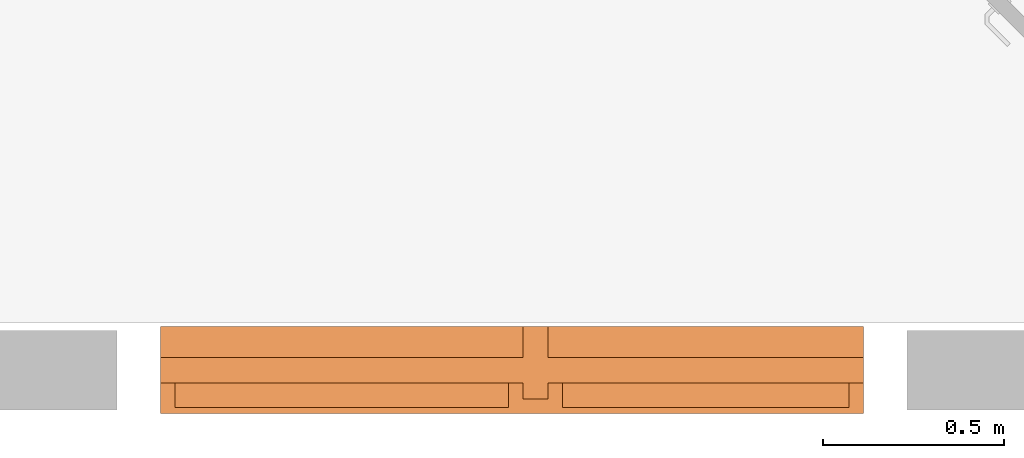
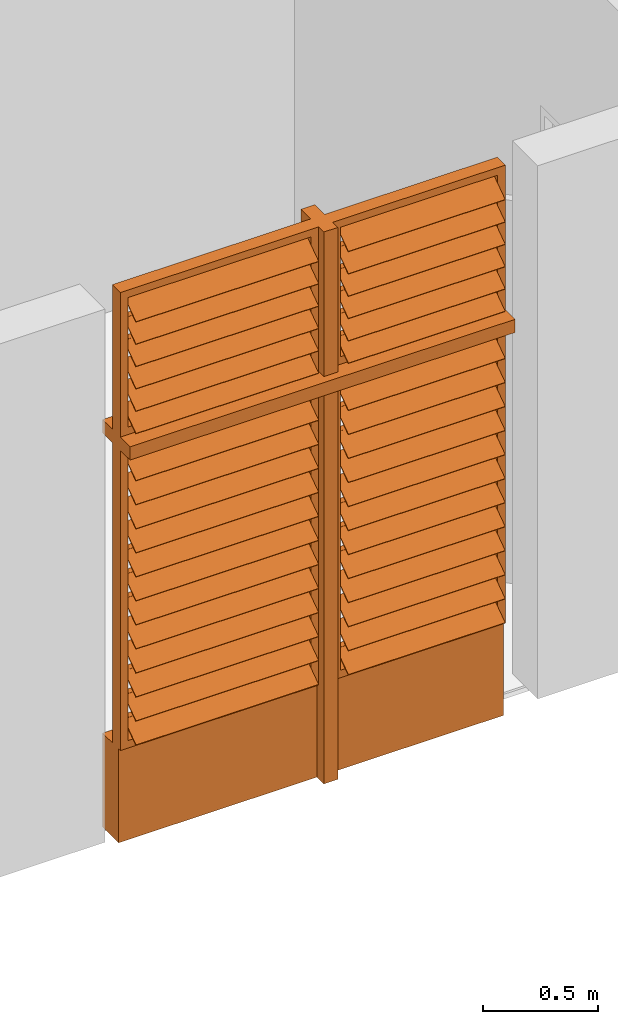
# One storey, part 10 of 15: 1 proxy.
"""IFC2X3 building model written with IfcOpenShell, lengths in metres."""

from ifc_helpers import new_model, entity, si_unit, converted_unit, derived_unit, direction, frame, frame_2d, origin, origin_2d_with_axis, place, context, subcontext, project, spatial, polyline, rectangle, outline, extrude, source, transform, mapped, material, material_list, type_object, type_shapes, element, save


model = new_model("IFC2X3")

# Units and contexts
model_context = context("Model", 3, precision=1e-05, world=origin(), true_north=direction((6.12303176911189e-17, 1.0)))
body_context = subcontext(model_context, "Body", "Model", "MODEL_VIEW")
ifc_project = project(units=[si_unit("LENGTHUNIT", "METRE"), si_unit("AREAUNIT", "SQUARE_METRE"), si_unit("VOLUMEUNIT", "CUBIC_METRE"), converted_unit("PLANEANGLEUNIT", "DEGREE", entity("IfcRatioMeasure", 0.0174532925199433), si_unit("PLANEANGLEUNIT", "RADIAN"), dimensions=[0, 0, 0, 0, 0, 0, 0]), si_unit("MASSUNIT", "GRAM", prefix="KILO"), derived_unit("MASSDENSITYUNIT", [(si_unit("MASSUNIT", "GRAM", prefix="KILO"), 1), (si_unit("LENGTHUNIT", "METRE"), -3)]), si_unit("TIMEUNIT", "SECOND"), si_unit("FREQUENCYUNIT", "HERTZ"), si_unit("THERMODYNAMICTEMPERATUREUNIT", "DEGREE_CELSIUS"), derived_unit("THERMALTRANSMITTANCEUNIT", [(si_unit("MASSUNIT", "GRAM", prefix="KILO"), 1), (si_unit("THERMODYNAMICTEMPERATUREUNIT", "KELVIN"), -1), (si_unit("TIMEUNIT", "SECOND"), -3)]), derived_unit("VOLUMETRICFLOWRATEUNIT", [(si_unit("LENGTHUNIT", "METRE"), 3), (si_unit("TIMEUNIT", "SECOND"), -1)]), si_unit("ELECTRICCURRENTUNIT", "AMPERE"), si_unit("ELECTRICVOLTAGEUNIT", "VOLT"), si_unit("POWERUNIT", "WATT"), si_unit("FORCEUNIT", "NEWTON", prefix="KILO"), si_unit("ILLUMINANCEUNIT", "LUX"), si_unit("LUMINOUSFLUXUNIT", "LUMEN"), si_unit("LUMINOUSINTENSITYUNIT", "CANDELA"), derived_unit("USERDEFINED", [(si_unit("MASSUNIT", "GRAM", prefix="KILO"), -1), (si_unit("LENGTHUNIT", "METRE"), -2), (si_unit("TIMEUNIT", "SECOND"), 3), (si_unit("LUMINOUSFLUXUNIT", "LUMEN"), 1)]), derived_unit("LINEARVELOCITYUNIT", [(si_unit("LENGTHUNIT", "METRE"), 1), (si_unit("TIMEUNIT", "SECOND"), -1)]), si_unit("PRESSUREUNIT", "PASCAL"), derived_unit("USERDEFINED", [(si_unit("LENGTHUNIT", "METRE"), -2), (si_unit("MASSUNIT", "GRAM", prefix="KILO"), 1), (si_unit("TIMEUNIT", "SECOND"), -2)])], contexts=[model_context])

# Site, building, storey
site_placement = place(None, origin())
site = spatial("IfcSite", under=ifc_project, at=site_placement, Name="Surface", CompositionType="ELEMENT")
building_placement = place(site_placement, origin())
building = spatial("IfcBuilding", under=site, at=building_placement, Name="ExPREF", CompositionType="ELEMENT")
storey_placement = place(building_placement, frame((0.0, 0.0, 7.83)))
storey = spatial("IfcBuildingStorey", under=building, at=storey_placement, Name="R+2", CompositionType="ELEMENT", Elevation=7.83)

# Proxy
ifc_material_1 = material(Name="AA-Aluminium")
ifc_material_2 = material(Name="AA-vitrage")
ifc_material_3 = material(Name="AA-bois menuiseries")
ifc_material_list_1 = material_list([ifc_material_1, ifc_material_2, ifc_material_3])
ifc_material_list_2 = material_list([ifc_material_1, ifc_material_2, ifc_material_3])
building_element_proxy_type = type_object("IfcBuildingElementProxyType", Name="R+2 naco + naco", PredefinedType="NOTDEFINED", material=ifc_material_list_2)
shared_shape = source(origin(), body_context, "Body", "SweptSolid", [
    extrude(rectangle(XDim=0.00770243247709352, YDim=0.0205728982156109, at=frame_2d((1.62196645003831e-16, 2.16840434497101e-16), x_axis=(0.0, 1.0))), frame((0.139999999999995, -0.107700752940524, 2.89046018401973), z_axis=(1.0, 0.0, 0.0), x_axis=(0.0, 0.819152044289, 0.573576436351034)), (0.0, 0.0, 1.0), 0.790000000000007),
    extrude(rectangle(XDim=0.00499999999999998, YDim=0.129427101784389, at=origin_2d_with_axis()), frame((0.139999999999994, -0.169165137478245, 2.84748191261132), z_axis=(1.0, 0.0, 0.0), x_axis=(0.0, -0.573576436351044, 0.819152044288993)), (0.0, 0.0, 1.0), 0.790000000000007),
    extrude(rectangle(XDim=0.00770243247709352, YDim=0.0205728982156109, at=frame_2d((1.62196645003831e-16, 2.16840434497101e-16), x_axis=(0.0, 1.0))), frame((-0.930000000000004, -0.107700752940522, 2.89046018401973), z_axis=(1.0, 0.0, 0.0), x_axis=(0.0, 0.819152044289, 0.573576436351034)), (0.0, 0.0, 1.0), 0.920000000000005),
    extrude(rectangle(XDim=0.00499999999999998, YDim=0.129427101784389, at=origin_2d_with_axis()), frame((-0.930000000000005, -0.169165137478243, 2.84748191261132), z_axis=(1.0, 0.0, 0.0), x_axis=(0.0, -0.573576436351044, 0.819152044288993)), (0.0, 0.0, 1.0), 0.920000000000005),
    extrude(rectangle(XDim=0.0077024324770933, YDim=0.0205728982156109, at=frame_2d((1.99493199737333e-17, -1.49619899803e-17), x_axis=(0.0, 1.0))), frame((-0.930000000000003, -0.107700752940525, 2.04446018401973), z_axis=(1.0, 0.0, 0.0), x_axis=(0.0, 0.819152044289, 0.573576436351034)), (0.0, 0.0, 1.0), 0.920000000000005),
    extrude(rectangle(XDim=0.00499999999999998, YDim=0.129427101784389, at=frame_2d((4.11996825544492e-18, 6.93889390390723e-18), x_axis=(1.0, 0.0))), frame((-0.930000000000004, -0.169165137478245, 2.00148191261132), z_axis=(1.0, 0.0, 0.0), x_axis=(0.0, -0.573576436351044, 0.819152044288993)), (0.0, 0.0, 1.0), 0.920000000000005),
    extrude(rectangle(XDim=0.00770243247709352, YDim=0.0205728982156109, at=frame_2d((1.99493199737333e-17, -1.49619899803e-17), x_axis=(0.0, 1.0))), frame((-0.930000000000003, -0.107700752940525, 1.91646018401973), z_axis=(1.0, 0.0, 0.0), x_axis=(0.0, 0.819152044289, 0.573576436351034)), (0.0, 0.0, 1.0), 0.920000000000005),
    extrude(rectangle(XDim=0.00499999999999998, YDim=0.129427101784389, at=frame_2d((4.11996825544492e-18, 6.93889390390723e-18), x_axis=(1.0, 0.0))), frame((-0.930000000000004, -0.169165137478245, 1.87348191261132), z_axis=(1.0, 0.0, 0.0), x_axis=(0.0, -0.573576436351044, 0.819152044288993)), (0.0, 0.0, 1.0), 0.920000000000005),
    extrude(rectangle(XDim=0.00770243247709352, YDim=0.0205728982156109, at=frame_2d((1.99493199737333e-17, -1.49619899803e-17), x_axis=(0.0, 1.0))), frame((-0.930000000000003, -0.107700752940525, 1.78846018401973), z_axis=(1.0, 0.0, 0.0), x_axis=(0.0, 0.819152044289, 0.573576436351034)), (0.0, 0.0, 1.0), 0.920000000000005),
    extrude(rectangle(XDim=0.00499999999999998, YDim=0.129427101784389, at=frame_2d((4.11996825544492e-18, 6.93889390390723e-18), x_axis=(1.0, 0.0))), frame((-0.930000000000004, -0.169165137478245, 1.74548191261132), z_axis=(1.0, 0.0, 0.0), x_axis=(0.0, -0.573576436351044, 0.819152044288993)), (0.0, 0.0, 1.0), 0.920000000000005),
    extrude(rectangle(XDim=0.00770243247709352, YDim=0.0205728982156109, at=frame_2d((1.99493199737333e-17, -1.49619899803e-17), x_axis=(0.0, 1.0))), frame((-0.930000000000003, -0.107700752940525, 1.66046018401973), z_axis=(1.0, 0.0, 0.0), x_axis=(0.0, 0.819152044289, 0.573576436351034)), (0.0, 0.0, 1.0), 0.920000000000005),
    extrude(rectangle(XDim=0.00499999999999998, YDim=0.129427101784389, at=frame_2d((4.11996825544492e-18, 6.93889390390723e-18), x_axis=(1.0, 0.0))), frame((-0.930000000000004, -0.169165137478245, 1.61748191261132), z_axis=(1.0, 0.0, 0.0), x_axis=(0.0, -0.573576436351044, 0.819152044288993)), (0.0, 0.0, 1.0), 0.920000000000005),
    extrude(rectangle(XDim=0.00770243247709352, YDim=0.0205728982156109, at=frame_2d((1.99493199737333e-17, -1.49619899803e-17), x_axis=(0.0, 1.0))), frame((-0.930000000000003, -0.107700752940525, 1.53246018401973), z_axis=(1.0, 0.0, 0.0), x_axis=(0.0, 0.819152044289, 0.573576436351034)), (0.0, 0.0, 1.0), 0.920000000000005),
    extrude(rectangle(XDim=0.00499999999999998, YDim=0.129427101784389, at=frame_2d((4.11996825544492e-18, 6.93889390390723e-18), x_axis=(1.0, 0.0))), frame((-0.930000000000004, -0.169165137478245, 1.48948191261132), z_axis=(1.0, 0.0, 0.0), x_axis=(0.0, -0.573576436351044, 0.819152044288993)), (0.0, 0.0, 1.0), 0.920000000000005),
    extrude(rectangle(XDim=0.00770243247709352, YDim=0.0205728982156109, at=frame_2d((1.99493199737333e-17, -1.49619899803e-17), x_axis=(0.0, 1.0))), frame((-0.930000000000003, -0.107700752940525, 1.40446018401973), z_axis=(1.0, 0.0, 0.0), x_axis=(0.0, 0.819152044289, 0.573576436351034)), (0.0, 0.0, 1.0), 0.920000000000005),
    extrude(rectangle(XDim=0.00499999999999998, YDim=0.129427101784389, at=frame_2d((4.11996825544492e-18, 6.93889390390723e-18), x_axis=(1.0, 0.0))), frame((-0.930000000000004, -0.169165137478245, 1.36148191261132), z_axis=(1.0, 0.0, 0.0), x_axis=(0.0, -0.573576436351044, 0.819152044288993)), (0.0, 0.0, 1.0), 0.920000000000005),
    extrude(rectangle(XDim=0.00770243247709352, YDim=0.0205728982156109, at=frame_2d((1.99493199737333e-17, -1.49619899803e-17), x_axis=(0.0, 1.0))), frame((-0.930000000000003, -0.107700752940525, 1.27646018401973), z_axis=(1.0, 0.0, 0.0), x_axis=(0.0, 0.819152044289, 0.573576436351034)), (0.0, 0.0, 1.0), 0.920000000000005),
    extrude(rectangle(XDim=0.00499999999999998, YDim=0.129427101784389, at=frame_2d((4.11996825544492e-18, 6.93889390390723e-18), x_axis=(1.0, 0.0))), frame((-0.930000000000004, -0.169165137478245, 1.23348191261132), z_axis=(1.0, 0.0, 0.0), x_axis=(0.0, -0.573576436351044, 0.819152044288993)), (0.0, 0.0, 1.0), 0.920000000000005),
    extrude(rectangle(XDim=0.00770243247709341, YDim=0.020572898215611, at=frame_2d((-1.82145964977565e-17, -7.02563007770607e-17), x_axis=(0.0, 1.0))), frame((-0.930000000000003, -0.107700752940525, 1.14846018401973), z_axis=(1.0, 0.0, 0.0), x_axis=(0.0, 0.819152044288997, 0.573576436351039)), (0.0, 0.0, 1.0), 0.920000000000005),
    extrude(rectangle(XDim=0.0050000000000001, YDim=0.129427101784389, at=frame_2d((4.33680868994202e-18, 6.93889390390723e-18), x_axis=(1.0, 0.0))), frame((-0.930000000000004, -0.169165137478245, 1.10548191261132), z_axis=(1.0, 0.0, 0.0), x_axis=(0.0, -0.573576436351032, 0.819152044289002)), (0.0, 0.0, 1.0), 0.920000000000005),
    extrude(rectangle(XDim=0.00770243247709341, YDim=0.020572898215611, at=frame_2d((-1.82145964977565e-17, -7.02563007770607e-17), x_axis=(0.0, 1.0))), frame((-0.930000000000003, -0.107700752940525, 1.02046018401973), z_axis=(1.0, 0.0, 0.0), x_axis=(0.0, 0.819152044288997, 0.573576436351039)), (0.0, 0.0, 1.0), 0.920000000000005),
    extrude(rectangle(XDim=0.0050000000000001, YDim=0.129427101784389, at=frame_2d((4.33680868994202e-18, 6.93889390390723e-18), x_axis=(1.0, 0.0))), frame((-0.930000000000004, -0.169165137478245, 0.977481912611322), z_axis=(1.0, 0.0, 0.0), x_axis=(0.0, -0.573576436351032, 0.819152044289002)), (0.0, 0.0, 1.0), 0.920000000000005),
    extrude(rectangle(XDim=0.00770243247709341, YDim=0.020572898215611, at=frame_2d((-1.82145964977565e-17, -7.02563007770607e-17), x_axis=(0.0, 1.0))), frame((-0.930000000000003, -0.107700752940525, 0.892460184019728), z_axis=(1.0, 0.0, 0.0), x_axis=(0.0, 0.819152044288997, 0.573576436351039)), (0.0, 0.0, 1.0), 0.920000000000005),
    extrude(rectangle(XDim=0.0050000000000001, YDim=0.129427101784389, at=frame_2d((4.33680868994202e-18, 6.93889390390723e-18), x_axis=(1.0, 0.0))), frame((-0.930000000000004, -0.169165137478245, 0.849481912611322), z_axis=(1.0, 0.0, 0.0), x_axis=(0.0, -0.573576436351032, 0.819152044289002)), (0.0, 0.0, 1.0), 0.920000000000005),
    extrude(rectangle(XDim=0.00770243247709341, YDim=0.020572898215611, at=frame_2d((-1.82145964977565e-17, -7.02563007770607e-17), x_axis=(0.0, 1.0))), frame((-0.930000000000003, -0.107700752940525, 0.764460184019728), z_axis=(1.0, 0.0, 0.0), x_axis=(0.0, 0.819152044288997, 0.573576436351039)), (0.0, 0.0, 1.0), 0.920000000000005),
    extrude(rectangle(XDim=0.0050000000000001, YDim=0.129427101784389, at=frame_2d((4.33680868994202e-18, 6.93889390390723e-18), x_axis=(1.0, 0.0))), frame((-0.930000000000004, -0.169165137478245, 0.721481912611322), z_axis=(1.0, 0.0, 0.0), x_axis=(0.0, -0.573576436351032, 0.819152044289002)), (0.0, 0.0, 1.0), 0.920000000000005),
    extrude(rectangle(XDim=0.00770243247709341, YDim=0.020572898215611, at=frame_2d((-1.82145964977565e-17, -7.02563007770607e-17), x_axis=(0.0, 1.0))), frame((-0.930000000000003, -0.107700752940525, 0.636460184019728), z_axis=(1.0, 0.0, 0.0), x_axis=(0.0, 0.819152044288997, 0.573576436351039)), (0.0, 0.0, 1.0), 0.920000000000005),
    extrude(rectangle(XDim=0.0050000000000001, YDim=0.129427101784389, at=frame_2d((4.33680868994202e-18, 6.93889390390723e-18), x_axis=(1.0, 0.0))), frame((-0.930000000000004, -0.169165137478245, 0.593481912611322), z_axis=(1.0, 0.0, 0.0), x_axis=(0.0, -0.573576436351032, 0.819152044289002)), (0.0, 0.0, 1.0), 0.920000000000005),
    extrude(rectangle(XDim=0.00770243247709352, YDim=0.0205728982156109, at=frame_2d((6.93889390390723e-18, -4.77048955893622e-18), x_axis=(0.0, 1.0))), frame((0.139999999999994, -0.107700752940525, 2.04446018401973), z_axis=(1.0, 0.0, 0.0), x_axis=(0.0, 0.819152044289, 0.573576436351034)), (0.0, 0.0, 1.0), 0.790000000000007),
    extrude(rectangle(XDim=0.00499999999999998, YDim=0.129427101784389, at=origin_2d_with_axis()), frame((0.139999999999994, -0.169165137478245, 2.00148191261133), z_axis=(1.0, 0.0, 0.0), x_axis=(0.0, -0.573576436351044, 0.819152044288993)), (0.0, 0.0, 1.0), 0.790000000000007),
    extrude(rectangle(XDim=0.0077024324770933, YDim=0.0205728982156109, at=frame_2d((6.93889390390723e-18, -4.77048955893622e-18), x_axis=(0.0, 1.0))), frame((0.139999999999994, -0.107700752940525, 1.91646018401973), z_axis=(1.0, 0.0, 0.0), x_axis=(0.0, 0.819152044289, 0.573576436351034)), (0.0, 0.0, 1.0), 0.790000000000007),
    extrude(rectangle(XDim=0.00499999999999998, YDim=0.129427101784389, at=origin_2d_with_axis()), frame((0.139999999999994, -0.169165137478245, 1.87348191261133), z_axis=(1.0, 0.0, 0.0), x_axis=(0.0, -0.573576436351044, 0.819152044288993)), (0.0, 0.0, 1.0), 0.790000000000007),
    extrude(rectangle(XDim=0.0077024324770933, YDim=0.0205728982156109, at=frame_2d((6.93889390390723e-18, -4.77048955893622e-18), x_axis=(0.0, 1.0))), frame((0.139999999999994, -0.107700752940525, 1.78846018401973), z_axis=(1.0, 0.0, 0.0), x_axis=(0.0, 0.819152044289, 0.573576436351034)), (0.0, 0.0, 1.0), 0.790000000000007),
    extrude(rectangle(XDim=0.00499999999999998, YDim=0.129427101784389, at=origin_2d_with_axis()), frame((0.139999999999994, -0.169165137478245, 1.74548191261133), z_axis=(1.0, 0.0, 0.0), x_axis=(0.0, -0.573576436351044, 0.819152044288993)), (0.0, 0.0, 1.0), 0.790000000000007),
    extrude(rectangle(XDim=0.0077024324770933, YDim=0.0205728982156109, at=frame_2d((6.93889390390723e-18, -4.77048955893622e-18), x_axis=(0.0, 1.0))), frame((0.139999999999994, -0.107700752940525, 1.66046018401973), z_axis=(1.0, 0.0, 0.0), x_axis=(0.0, 0.819152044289, 0.573576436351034)), (0.0, 0.0, 1.0), 0.790000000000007),
    extrude(rectangle(XDim=0.00499999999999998, YDim=0.129427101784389, at=origin_2d_with_axis()), frame((0.139999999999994, -0.169165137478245, 1.61748191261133), z_axis=(1.0, 0.0, 0.0), x_axis=(0.0, -0.573576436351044, 0.819152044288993)), (0.0, 0.0, 1.0), 0.790000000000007),
    extrude(rectangle(XDim=0.0077024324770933, YDim=0.0205728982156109, at=frame_2d((6.93889390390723e-18, -4.77048955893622e-18), x_axis=(0.0, 1.0))), frame((0.139999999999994, -0.107700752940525, 1.53246018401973), z_axis=(1.0, 0.0, 0.0), x_axis=(0.0, 0.819152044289, 0.573576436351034)), (0.0, 0.0, 1.0), 0.790000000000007),
    extrude(rectangle(XDim=0.00499999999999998, YDim=0.129427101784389, at=origin_2d_with_axis()), frame((0.139999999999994, -0.169165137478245, 1.48948191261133), z_axis=(1.0, 0.0, 0.0), x_axis=(0.0, -0.573576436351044, 0.819152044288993)), (0.0, 0.0, 1.0), 0.790000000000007),
    extrude(rectangle(XDim=0.0077024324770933, YDim=0.0205728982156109, at=frame_2d((6.93889390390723e-18, -4.77048955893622e-18), x_axis=(0.0, 1.0))), frame((0.139999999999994, -0.107700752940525, 1.40446018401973), z_axis=(1.0, 0.0, 0.0), x_axis=(0.0, 0.819152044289, 0.573576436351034)), (0.0, 0.0, 1.0), 0.790000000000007),
    extrude(rectangle(XDim=0.00499999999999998, YDim=0.129427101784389, at=origin_2d_with_axis()), frame((0.139999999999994, -0.169165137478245, 1.36148191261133), z_axis=(1.0, 0.0, 0.0), x_axis=(0.0, -0.573576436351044, 0.819152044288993)), (0.0, 0.0, 1.0), 0.790000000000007),
    extrude(rectangle(XDim=0.0077024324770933, YDim=0.0205728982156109, at=frame_2d((6.93889390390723e-18, -4.77048955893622e-18), x_axis=(0.0, 1.0))), frame((0.139999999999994, -0.107700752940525, 1.27646018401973), z_axis=(1.0, 0.0, 0.0), x_axis=(0.0, 0.819152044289, 0.573576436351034)), (0.0, 0.0, 1.0), 0.790000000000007),
    extrude(rectangle(XDim=0.00499999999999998, YDim=0.129427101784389, at=origin_2d_with_axis()), frame((0.139999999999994, -0.169165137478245, 1.23348191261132), z_axis=(1.0, 0.0, 0.0), x_axis=(0.0, -0.573576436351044, 0.819152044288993)), (0.0, 0.0, 1.0), 0.790000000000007),
    extrude(rectangle(XDim=0.00770243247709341, YDim=0.020572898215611, at=frame_2d((4.68375338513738e-17, 5.07406616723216e-17), x_axis=(0.0, 1.0))), frame((0.139999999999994, -0.107700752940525, 1.14846018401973), z_axis=(1.0, 0.0, 0.0), x_axis=(0.0, 0.819152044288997, 0.573576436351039)), (0.0, 0.0, 1.0), 0.790000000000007),
    extrude(rectangle(XDim=0.00500000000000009, YDim=0.129427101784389, at=origin_2d_with_axis()), frame((0.139999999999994, -0.169165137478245, 1.10548191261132), z_axis=(1.0, 0.0, 0.0), x_axis=(0.0, -0.573576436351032, 0.819152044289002)), (0.0, 0.0, 1.0), 0.790000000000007),
    extrude(rectangle(XDim=0.00770243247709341, YDim=0.020572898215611, at=frame_2d((4.68375338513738e-17, 5.07406616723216e-17), x_axis=(0.0, 1.0))), frame((0.139999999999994, -0.107700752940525, 1.02046018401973), z_axis=(1.0, 0.0, 0.0), x_axis=(0.0, 0.819152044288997, 0.573576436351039)), (0.0, 0.0, 1.0), 0.790000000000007),
    extrude(rectangle(XDim=0.00500000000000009, YDim=0.129427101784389, at=origin_2d_with_axis()), frame((0.139999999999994, -0.169165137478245, 0.977481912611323), z_axis=(1.0, 0.0, 0.0), x_axis=(0.0, -0.573576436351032, 0.819152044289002)), (0.0, 0.0, 1.0), 0.790000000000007),
    extrude(rectangle(XDim=0.00770243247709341, YDim=0.020572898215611, at=frame_2d((4.68375338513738e-17, 5.07406616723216e-17), x_axis=(0.0, 1.0))), frame((0.139999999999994, -0.107700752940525, 0.892460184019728), z_axis=(1.0, 0.0, 0.0), x_axis=(0.0, 0.819152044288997, 0.573576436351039)), (0.0, 0.0, 1.0), 0.790000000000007),
    extrude(rectangle(XDim=0.00500000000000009, YDim=0.129427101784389, at=origin_2d_with_axis()), frame((0.139999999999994, -0.169165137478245, 0.849481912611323), z_axis=(1.0, 0.0, 0.0), x_axis=(0.0, -0.573576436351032, 0.819152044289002)), (0.0, 0.0, 1.0), 0.790000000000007),
    extrude(rectangle(XDim=0.00770243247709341, YDim=0.020572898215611, at=frame_2d((-3.29597460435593e-17, -6.0281640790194e-17), x_axis=(0.0, 1.0))), frame((0.139999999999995, -0.107700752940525, 0.764460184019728), z_axis=(1.0, 0.0, 0.0), x_axis=(0.0, 0.819152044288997, 0.573576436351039)), (0.0, 0.0, 1.0), 0.790000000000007),
    extrude(rectangle(XDim=0.00500000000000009, YDim=0.129427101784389, at=origin_2d_with_axis()), frame((0.139999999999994, -0.169165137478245, 0.721481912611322), z_axis=(1.0, 0.0, 0.0), x_axis=(0.0, -0.573576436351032, 0.819152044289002)), (0.0, 0.0, 1.0), 0.790000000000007),
    extrude(rectangle(XDim=0.00770243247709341, YDim=0.020572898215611, at=frame_2d((-3.29597460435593e-17, -6.0281640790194e-17), x_axis=(0.0, 1.0))), frame((0.139999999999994, -0.107700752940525, 0.636460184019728), z_axis=(1.0, 0.0, 0.0), x_axis=(0.0, 0.819152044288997, 0.573576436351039)), (0.0, 0.0, 1.0), 0.790000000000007),
    extrude(rectangle(XDim=0.00500000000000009, YDim=0.129427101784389, at=origin_2d_with_axis()), frame((0.139999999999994, -0.169165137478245, 0.593481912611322), z_axis=(1.0, 0.0, 0.0), x_axis=(0.0, -0.573576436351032, 0.819152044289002)), (0.0, 0.0, 1.0), 0.790000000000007),
    extrude(rectangle(XDim=0.00770243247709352, YDim=0.0205728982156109, at=frame_2d((1.62196645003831e-16, 2.16840434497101e-16), x_axis=(0.0, 1.0))), frame((0.139999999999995, -0.107700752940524, 2.77146018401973), z_axis=(1.0, 0.0, 0.0), x_axis=(0.0, 0.819152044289, 0.573576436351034)), (0.0, 0.0, 1.0), 0.790000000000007),
    extrude(rectangle(XDim=0.00499999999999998, YDim=0.129427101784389, at=origin_2d_with_axis()), frame((0.139999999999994, -0.169165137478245, 2.72848191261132), z_axis=(1.0, 0.0, 0.0), x_axis=(0.0, -0.573576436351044, 0.819152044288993)), (0.0, 0.0, 1.0), 0.790000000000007),
    extrude(rectangle(XDim=0.00770243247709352, YDim=0.0205728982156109, at=frame_2d((1.62196645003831e-16, 2.16840434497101e-16), x_axis=(0.0, 1.0))), frame((-0.930000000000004, -0.107700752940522, 2.77146018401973), z_axis=(1.0, 0.0, 0.0), x_axis=(0.0, 0.819152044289, 0.573576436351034)), (0.0, 0.0, 1.0), 0.920000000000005),
    extrude(rectangle(XDim=0.00499999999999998, YDim=0.129427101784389, at=origin_2d_with_axis()), frame((-0.930000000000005, -0.169165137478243, 2.72848191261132), z_axis=(1.0, 0.0, 0.0), x_axis=(0.0, -0.573576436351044, 0.819152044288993)), (0.0, 0.0, 1.0), 0.920000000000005),
    extrude(rectangle(XDim=0.00770243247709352, YDim=0.0205728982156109, at=frame_2d((1.62196645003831e-16, 2.16840434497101e-16), x_axis=(0.0, 1.0))), frame((-0.930000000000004, -0.107700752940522, 2.65246018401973), z_axis=(1.0, 0.0, 0.0), x_axis=(0.0, 0.819152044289, 0.573576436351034)), (0.0, 0.0, 1.0), 0.920000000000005),
    extrude(rectangle(XDim=0.00499999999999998, YDim=0.129427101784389, at=origin_2d_with_axis()), frame((-0.930000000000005, -0.169165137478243, 2.60948191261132), z_axis=(1.0, 0.0, 0.0), x_axis=(0.0, -0.573576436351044, 0.819152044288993)), (0.0, 0.0, 1.0), 0.920000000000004),
    extrude(rectangle(XDim=0.00770243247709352, YDim=0.0205728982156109, at=frame_2d((1.62196645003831e-16, 2.16840434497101e-16), x_axis=(0.0, 1.0))), frame((-0.930000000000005, -0.107700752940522, 2.53346018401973), z_axis=(1.0, 0.0, 0.0), x_axis=(0.0, 0.819152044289, 0.573576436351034)), (0.0, 0.0, 1.0), 0.920000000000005),
    extrude(rectangle(XDim=0.00499999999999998, YDim=0.129427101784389, at=origin_2d_with_axis()), frame((-0.930000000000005, -0.169165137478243, 2.49048191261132), z_axis=(1.0, 0.0, 0.0), x_axis=(0.0, -0.573576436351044, 0.819152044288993)), (0.0, 0.0, 1.0), 0.920000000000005),
    extrude(rectangle(XDim=0.00770243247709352, YDim=0.0205728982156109, at=frame_2d((1.62196645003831e-16, 2.16840434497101e-16), x_axis=(0.0, 1.0))), frame((0.139999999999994, -0.107700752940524, 2.65246018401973), z_axis=(1.0, 0.0, 0.0), x_axis=(0.0, 0.819152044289, 0.573576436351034)), (0.0, 0.0, 1.0), 0.790000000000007),
    extrude(rectangle(XDim=0.00499999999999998, YDim=0.129427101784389, at=origin_2d_with_axis()), frame((0.139999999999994, -0.169165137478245, 2.60948191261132), z_axis=(1.0, 0.0, 0.0), x_axis=(0.0, -0.573576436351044, 0.819152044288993)), (0.0, 0.0, 1.0), 0.790000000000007),
    extrude(rectangle(XDim=0.00770243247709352, YDim=0.0205728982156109, at=frame_2d((-1.48318857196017e-16, -2.26381413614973e-16), x_axis=(0.0, 1.0))), frame((0.139999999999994, -0.107700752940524, 2.53346018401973), z_axis=(1.0, 0.0, 0.0), x_axis=(0.0, 0.819152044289, 0.573576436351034)), (0.0, 0.0, 1.0), 0.790000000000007),
    extrude(rectangle(XDim=0.00499999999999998, YDim=0.129427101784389, at=frame_2d((4.44089209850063e-16, -3.12250225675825e-16), x_axis=(1.0, 0.0))), frame((0.139999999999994, -0.169165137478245, 2.49048191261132), z_axis=(1.0, 0.0, 0.0), x_axis=(0.0, -0.573576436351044, 0.819152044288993)), (0.0, 0.0, 1.0), 0.790000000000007),
    extrude(rectangle(XDim=0.0077024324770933, YDim=0.0205728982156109, at=frame_2d((6.93889390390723e-18, -4.77048955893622e-18), x_axis=(0.0, 1.0))), frame((0.139999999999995, -0.107700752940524, 2.41446018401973), z_axis=(1.0, 0.0, 0.0), x_axis=(0.0, 0.819152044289, 0.573576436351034)), (0.0, 0.0, 1.0), 0.790000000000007),
    extrude(rectangle(XDim=0.00499999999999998, YDim=0.129427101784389, at=origin_2d_with_axis()), frame((0.139999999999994, -0.169165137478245, 2.37148191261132), z_axis=(1.0, 0.0, 0.0), x_axis=(0.0, -0.573576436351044, 0.819152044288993)), (0.0, 0.0, 1.0), 0.790000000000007),
    extrude(rectangle(XDim=0.00770243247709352, YDim=0.0205728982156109, at=frame_2d((-1.48318857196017e-16, -2.26381413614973e-16), x_axis=(0.0, 1.0))), frame((0.139999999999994, -0.107700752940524, 2.29546018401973), z_axis=(1.0, 0.0, 0.0), x_axis=(0.0, 0.819152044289, 0.573576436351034)), (0.0, 0.0, 1.0), 0.790000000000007),
    extrude(rectangle(XDim=0.00499999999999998, YDim=0.129427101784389, at=origin_2d_with_axis()), frame((0.139999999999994, -0.169165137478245, 2.25248191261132), z_axis=(1.0, 0.0, 0.0), x_axis=(0.0, -0.573576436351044, 0.819152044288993)), (0.0, 0.0, 1.0), 0.790000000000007),
    extrude(rectangle(XDim=0.00770243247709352, YDim=0.0205728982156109, at=frame_2d((6.93889390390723e-18, -4.77048955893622e-18), x_axis=(0.0, 1.0))), frame((-0.930000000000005, -0.107700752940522, 2.41446018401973), z_axis=(1.0, 0.0, 0.0), x_axis=(0.0, 0.819152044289, 0.573576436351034)), (0.0, 0.0, 1.0), 0.920000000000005),
    extrude(rectangle(XDim=0.00499999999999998, YDim=0.129427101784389, at=origin_2d_with_axis()), frame((-0.930000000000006, -0.169165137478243, 2.37148191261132), z_axis=(1.0, 0.0, 0.0), x_axis=(0.0, -0.573576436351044, 0.819152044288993)), (0.0, 0.0, 1.0), 0.920000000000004),
    extrude(rectangle(XDim=0.00770243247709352, YDim=0.0205728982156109, at=frame_2d((6.93889390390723e-18, -4.77048955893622e-18), x_axis=(0.0, 1.0))), frame((-0.930000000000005, -0.107700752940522, 2.29546018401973), z_axis=(1.0, 0.0, 0.0), x_axis=(0.0, 0.819152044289, 0.573576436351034)), (0.0, 0.0, 1.0), 0.920000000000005),
    extrude(rectangle(XDim=0.00499999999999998, YDim=0.129427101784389, at=origin_2d_with_axis()), frame((-0.930000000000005, -0.169165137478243, 2.25248191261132), z_axis=(1.0, 0.0, 0.0), x_axis=(0.0, -0.573576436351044, 0.819152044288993)), (0.0, 0.0, 1.0), 0.920000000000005),
    extrude(outline(polyline([(-0.500000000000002, -0.799999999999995), (0.500000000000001, -0.799999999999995), (0.500000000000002, 0.799999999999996), (-0.500000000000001, 0.799999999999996), (-0.500000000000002, -0.799999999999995)]), holes=[polyline([(-0.460000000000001, -0.759999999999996), (-0.460000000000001, 0.759999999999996), (0.460000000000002, 0.759999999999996), (0.460000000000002, -0.759999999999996), (-0.460000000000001, -0.759999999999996)])]), frame((-0.470000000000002, -0.155, 1.3), z_axis=(0.0, 1.0, 0.0), x_axis=(-1.0, 0.0, 0.0)), (0.0, 0.0, 1.0), 0.069999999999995),
    extrude(rectangle(XDim=0.140000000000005, YDim=1.0, at=origin_2d_with_axis()), frame((-0.470000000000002, -0.0700000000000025, 0.0), z_axis=(0.0, 0.0, 1.0), x_axis=(0.0, 1.0, 0.0)), (0.0, 0.0, 1.0), 0.500000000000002),
    extrude(outline(polyline([(-0.435000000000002, -0.799999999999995), (0.435000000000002, -0.799999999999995), (0.435000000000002, 0.799999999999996), (-0.435000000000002, 0.799999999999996), (-0.435000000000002, -0.799999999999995)]), holes=[polyline([(-0.395000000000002, -0.759999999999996), (-0.395000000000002, 0.759999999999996), (0.395000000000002, 0.759999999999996), (0.395000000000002, -0.759999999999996), (-0.395000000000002, -0.759999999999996)])]), frame((0.534999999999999, -0.155, 1.3), z_axis=(0.0, 1.0, 0.0), x_axis=(-1.0, 0.0, 0.0)), (0.0, 0.0, 1.0), 0.069999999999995),
    extrude(outline(polyline([(-0.38500000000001, -0.5), (0.38500000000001, -0.5), (0.38500000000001, 0.5), (-0.38500000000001, 0.5), (-0.38500000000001, -0.5)]), holes=[polyline([(-0.34500000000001, -0.46), (-0.34500000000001, 0.46), (0.345000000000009, 0.46), (0.345000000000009, -0.46), (-0.34500000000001, -0.46)])]), frame((-0.47, -0.155, 2.55500000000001), z_axis=(0.0, 1.0, 0.0), x_axis=(0.0, 0.0, 1.0)), (0.0, 0.0, 1.0), 0.069999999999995),
    extrude(outline(polyline([(-0.38500000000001, -0.435000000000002), (0.38500000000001, -0.435000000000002), (0.38500000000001, 0.435000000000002), (-0.38500000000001, 0.435000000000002), (-0.38500000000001, -0.435000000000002)]), holes=[polyline([(-0.34500000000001, -0.395000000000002), (-0.34500000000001, 0.395000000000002), (0.34500000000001, 0.395000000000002), (0.34500000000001, -0.395000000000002), (-0.34500000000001, -0.395000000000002)])]), frame((0.534999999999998, -0.155, 2.555), z_axis=(0.0, 1.0, 0.0), x_axis=(0.0, 0.0, 1.0)), (0.0, 0.0, 1.0), 0.069999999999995),
    extrude(rectangle(XDim=0.2, YDim=0.0699999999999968, at=origin_2d_with_axis()), frame((0.0649999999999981, -0.1, 2.17), z_axis=(0.0, 0.0, 1.0), x_axis=(0.0, 1.0, 0.0)), (0.0, 0.0, 1.0), 0.770000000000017),
    extrude(rectangle(XDim=0.2, YDim=0.0699999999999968, at=origin_2d_with_axis()), frame((0.0649999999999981, -0.1, 0.0), z_axis=(0.0, 0.0, 1.0), x_axis=(0.0, 1.0, 0.0)), (0.0, 0.0, 1.0), 2.1),
    extrude(rectangle(XDim=0.140000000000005, YDim=0.870000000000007, at=origin_2d_with_axis()), frame((0.535, -0.0700000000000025, 0.0), z_axis=(0.0, 0.0, 1.0), x_axis=(0.0, 1.0, 0.0)), (0.0, 0.0, 1.0), 0.500000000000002),
    extrude(rectangle(XDim=0.24, YDim=1.94, at=origin_2d_with_axis()), frame((0.0, -0.12, 2.1), z_axis=(0.0, 0.0, 1.0), x_axis=(0.0, 1.0, 0.0)), (0.0, 0.0, 1.0), 0.0700000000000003),
])
type_shapes(building_element_proxy_type, [shared_shape])
proxy_placement = place(storey_placement, frame((47.489743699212, -193.239651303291, 0.0)))
element("IfcBuildingElementProxy", 1, at=proxy_placement, inside=storey, type_object=building_element_proxy_type, material=ifc_material_list_1, Name="R+2 naco + naco:R+2 naco + naco", ObjectType="R+2 naco + naco", context=body_context, shape_type="MappedRepresentation", body=[
    mapped(shared_shape, transform((0.0, 0.0, 0.0), scale=1.0)),
])

save(model, "model.ifc")
